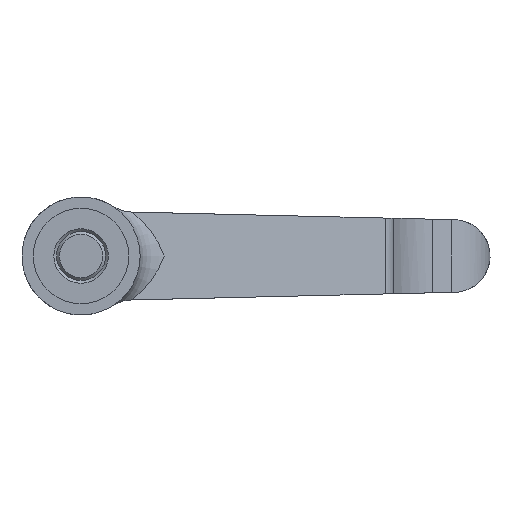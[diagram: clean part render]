
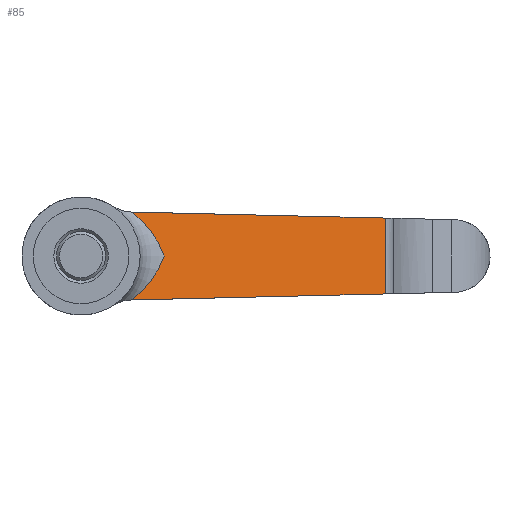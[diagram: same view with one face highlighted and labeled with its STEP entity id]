
A CAD part, front view. The second image highlights one B-rep face of the part: STEP entity #85.
In plain terms, the highlighted planar face has unit normal (0.335, -0.942, 0).
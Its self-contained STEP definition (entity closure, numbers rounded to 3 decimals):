
#85 = ADVANCED_FACE( '', ( #147 ), #148, .F. );
#147 = FACE_OUTER_BOUND( '', #266, .T. );
#148 = PLANE( '', #267 );
#266 = EDGE_LOOP( '', ( #447, #448, #449, #450, #451 ) );
#267 = AXIS2_PLACEMENT_3D( '', #452, #453, #454 );
#447 = ORIENTED_EDGE( '', *, *, #777, .T. );
#448 = ORIENTED_EDGE( '', *, *, #778, .T. );
#449 = ORIENTED_EDGE( '', *, *, #779, .T. );
#450 = ORIENTED_EDGE( '', *, *, #780, .T. );
#451 = ORIENTED_EDGE( '', *, *, #776, .F. );
#452 = CARTESIAN_POINT( '', ( 4.16, 44.135, 17.5 ) );
#453 = DIRECTION( '', ( -0.335, 0.942, 0. ) );
#454 = DIRECTION( '', ( -0.942, -0.335, 0. ) );
#776 = EDGE_CURVE( '', #933, #931, #935, .T. );
#777 = EDGE_CURVE( '', #933, #936, #937, .T. );
#778 = EDGE_CURVE( '', #936, #938, #939, .F. );
#779 = EDGE_CURVE( '', #938, #940, #941, .T. );
#780 = EDGE_CURVE( '', #940, #931, #942, .T. );
#931 = VERTEX_POINT( '', #1263 );
#933 = VERTEX_POINT( '', #1265 );
#935 = LINE( '', #1267, #1268 );
#936 = VERTEX_POINT( '', #1269 );
#937 = LINE( '', #1270, #1271 );
#938 = VERTEX_POINT( '', #1272 );
#939 = B_SPLINE_CURVE_WITH_KNOTS( '', 3, ( #1273, #1274, #1275, #1276, #1277, #1278, #1279, #1280, #1281, #1282, #1283, #1284, #1285, #1286, #1287, #1288 ), .UNSPECIFIED., .F., .F., ( 4, 2, 2, 2, 2, 2, 2, 4 ), ( 0., 0., 0.001, 0.002, 0.003, 0.004, 0.005, 0.006 ), .UNSPECIFIED. );
#940 = VERTEX_POINT( '', #1289 );
#941 = B_SPLINE_CURVE_WITH_KNOTS( '', 3, ( #1290, #1291, #1292, #1293, #1294, #1295, #1296, #1297, #1298, #1299, #1300, #1301, #1302, #1303, #1304, #1305 ), .UNSPECIFIED., .F., .F., ( 4, 2, 2, 2, 2, 2, 2, 4 ), ( 0., 0., 0.001, 0.002, 0.003, 0.004, 0.005, 0.006 ), .UNSPECIFIED. );
#942 = LINE( '', #1306, #1307 );
#1263 = CARTESIAN_POINT( '', ( 33.456, 54.55, -4.175 ) );
#1265 = CARTESIAN_POINT( '', ( 33.456, 54.55, 4.175 ) );
#1267 = CARTESIAN_POINT( '', ( 33.456, 54.55, 17.5 ) );
#1268 = VECTOR( '', #1515, 1000. );
#1269 = CARTESIAN_POINT( '', ( 5.556, 44.632, 4.839 ) );
#1270 = CARTESIAN_POINT( '', ( 3.893, 44.041, 4.878 ) );
#1271 = VECTOR( '', #1516, 1000. );
#1272 = CARTESIAN_POINT( '', ( 9.16, 45.913, 0. ) );
#1273 = CARTESIAN_POINT( '', ( 9.16, 45.913, 0. ) );
#1274 = CARTESIAN_POINT( '', ( 9.116, 45.897, 0.121 ) );
#1275 = CARTESIAN_POINT( '', ( 9.069, 45.881, 0.245 ) );
#1276 = CARTESIAN_POINT( '', ( 8.972, 45.846, 0.486 ) );
#1277 = CARTESIAN_POINT( '', ( 8.922, 45.828, 0.605 ) );
#1278 = CARTESIAN_POINT( '', ( 8.764, 45.772, 0.96 ) );
#1279 = CARTESIAN_POINT( '', ( 8.651, 45.732, 1.191 ) );
#1280 = CARTESIAN_POINT( '', ( 8.288, 45.603, 1.869 ) );
#1281 = CARTESIAN_POINT( '', ( 8.015, 45.506, 2.301 ) );
#1282 = CARTESIAN_POINT( '', ( 7.556, 45.343, 2.919 ) );
#1283 = CARTESIAN_POINT( '', ( 7.394, 45.285, 3.12 ) );
#1284 = CARTESIAN_POINT( '', ( 7.059, 45.166, 3.505 ) );
#1285 = CARTESIAN_POINT( '', ( 6.886, 45.104, 3.69 ) );
#1286 = CARTESIAN_POINT( '', ( 6.347, 44.913, 4.222 ) );
#1287 = CARTESIAN_POINT( '', ( 5.964, 44.777, 4.546 ) );
#1288 = CARTESIAN_POINT( '', ( 5.556, 44.632, 4.839 ) );
#1289 = CARTESIAN_POINT( '', ( 5.556, 44.632, -4.839 ) );
#1290 = CARTESIAN_POINT( '', ( 9.16, 45.913, 0. ) );
#1291 = CARTESIAN_POINT( '', ( 9.116, 45.897, -0.121 ) );
#1292 = CARTESIAN_POINT( '', ( 9.069, 45.881, -0.245 ) );
#1293 = CARTESIAN_POINT( '', ( 8.972, 45.846, -0.486 ) );
#1294 = CARTESIAN_POINT( '', ( 8.922, 45.828, -0.605 ) );
#1295 = CARTESIAN_POINT( '', ( 8.764, 45.772, -0.96 ) );
#1296 = CARTESIAN_POINT( '', ( 8.651, 45.732, -1.191 ) );
#1297 = CARTESIAN_POINT( '', ( 8.288, 45.603, -1.869 ) );
#1298 = CARTESIAN_POINT( '', ( 8.015, 45.506, -2.301 ) );
#1299 = CARTESIAN_POINT( '', ( 7.556, 45.343, -2.919 ) );
#1300 = CARTESIAN_POINT( '', ( 7.394, 45.285, -3.12 ) );
#1301 = CARTESIAN_POINT( '', ( 7.059, 45.166, -3.505 ) );
#1302 = CARTESIAN_POINT( '', ( 6.886, 45.104, -3.69 ) );
#1303 = CARTESIAN_POINT( '', ( 6.347, 44.913, -4.222 ) );
#1304 = CARTESIAN_POINT( '', ( 5.964, 44.777, -4.546 ) );
#1305 = CARTESIAN_POINT( '', ( 5.556, 44.632, -4.839 ) );
#1306 = CARTESIAN_POINT( '', ( 4.632, 44.303, -4.861 ) );
#1307 = VECTOR( '', #1517, 1000. );
#1515 = DIRECTION( '', ( 0., 0., -1. ) );
#1516 = DIRECTION( '', ( -0.942, -0.335, 0.022 ) );
#1517 = DIRECTION( '', ( 0.942, 0.335, 0.022 ) );
